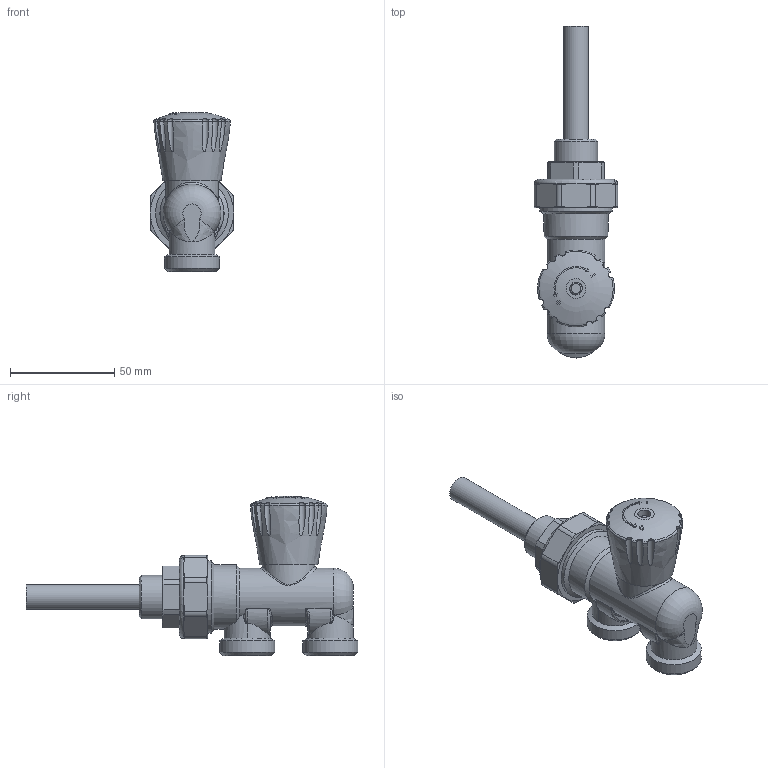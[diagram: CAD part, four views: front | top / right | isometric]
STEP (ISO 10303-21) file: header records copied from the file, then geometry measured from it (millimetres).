
FILE_DESCRIPTION(('STEP AP203'), '1');
FILE_NAME('VT.022.N.E04050', '2024-06-28T06:40:51', ('User'), ('Vesta'), 'C3D Converter', 'C3D Toolkit', '');
FILE_SCHEMA(('CONFIG_CONTROL_DESIGN'));
Length unit declared in the file: millimetre
Products named in the file (1): ВР.493241.001.000 СБ
Bounding box: 40 x 159.42 x 76.4 mm (x, y, z)
Volume: 119258.4 mm3; surface area: 21477.5 mm2
Topology: 1 solids, 5 shells, 197 faces, 498 edges, 317 vertices
Faces by surface type: plane 63, cylinder 53, bspline 31, torus 29, cone 21
Full cylindrical faces by diameter (mm): 5.8 x1, 6.2 x1, 12 x1, 20.955 x1, 22 x1, 25.3 x1, 26.441 x2, 27.8 x1, 29.7 x1, 30 x1, 30.8 x1, 35 x1
Entity records: 13901 total; most frequent: CARTESIAN_POINT 9754, ORIENTED_EDGE 940, DIRECTION 672, EDGE_CURVE 470, VERTEX_POINT 336, AXIS2_PLACEMENT_3D 296, B_SPLINE_CURVE_WITH_KNOTS 259, EDGE_LOOP 225
